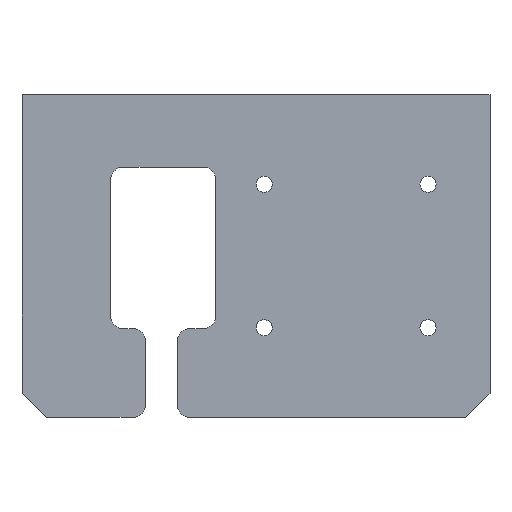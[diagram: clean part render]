
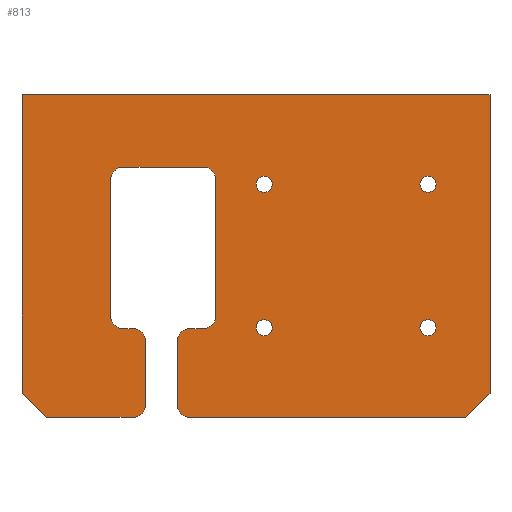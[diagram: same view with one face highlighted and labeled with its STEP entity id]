
A CAD part, top view. The second image highlights one B-rep face of the part: STEP entity #813.
In plain terms, the highlighted planar face has unit normal (0, 0, 1).
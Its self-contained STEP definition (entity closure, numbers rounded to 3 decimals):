
#112=PLANE('',#872);
#146=VECTOR('',#988,1.);
#148=VECTOR('',#991,1.);
#150=VECTOR('',#994,1.);
#152=VECTOR('',#997,1.);
#155=VECTOR('',#1009,1.);
#156=VECTOR('',#1010,1.);
#157=VECTOR('',#1011,1.);
#158=VECTOR('',#1012,1.);
#159=VECTOR('',#1013,1.);
#160=VECTOR('',#1014,1.);
#161=VECTOR('',#1015,1.);
#162=VECTOR('',#1016,1.);
#205=LINE('',#1191,#146);
#207=LINE('',#1194,#148);
#209=LINE('',#1197,#150);
#211=LINE('',#1200,#152);
#214=LINE('',#1214,#155);
#215=LINE('',#1215,#156);
#216=LINE('',#1217,#157);
#217=LINE('',#1219,#158);
#218=LINE('',#1221,#159);
#219=LINE('',#1223,#160);
#220=LINE('',#1225,#161);
#221=LINE('',#1226,#162);
#248=VERTEX_POINT('',#1120);
#249=VERTEX_POINT('',#1121);
#252=VERTEX_POINT('',#1129);
#253=VERTEX_POINT('',#1130);
#256=VERTEX_POINT('',#1138);
#257=VERTEX_POINT('',#1139);
#260=VERTEX_POINT('',#1147);
#261=VERTEX_POINT('',#1148);
#266=VERTEX_POINT('',#1159);
#267=VERTEX_POINT('',#1161);
#268=VERTEX_POINT('',#1165);
#269=VERTEX_POINT('',#1166);
#272=VERTEX_POINT('',#1174);
#273=VERTEX_POINT('',#1175);
#278=VERTEX_POINT('',#1186);
#279=VERTEX_POINT('',#1188);
#280=VERTEX_POINT('',#1201);
#282=VERTEX_POINT('',#1207);
#283=VERTEX_POINT('',#1209);
#284=VERTEX_POINT('',#1211);
#285=VERTEX_POINT('',#1213);
#286=VERTEX_POINT('',#1216);
#287=VERTEX_POINT('',#1218);
#288=VERTEX_POINT('',#1220);
#289=VERTEX_POINT('',#1222);
#290=VERTEX_POINT('',#1224);
#322=CIRCLE('',#845,1.5);
#324=CIRCLE('',#848,1.5);
#326=CIRCLE('',#851,1.5);
#328=CIRCLE('',#854,1.5);
#331=CIRCLE('',#858,1.5);
#332=CIRCLE('',#860,1.5);
#334=CIRCLE('',#863,1.5);
#337=CIRCLE('',#867,1.5);
#338=CIRCLE('',#873,1.);
#339=CIRCLE('',#874,1.);
#340=CIRCLE('',#875,1.);
#341=CIRCLE('',#876,1.);
#360=EDGE_CURVE('',#248,#249,#322,.T.);
#364=EDGE_CURVE('',#252,#253,#324,.T.);
#368=EDGE_CURVE('',#256,#257,#326,.T.);
#372=EDGE_CURVE('',#260,#261,#328,.T.);
#378=EDGE_CURVE('',#266,#267,#331,.T.);
#380=EDGE_CURVE('',#268,#269,#332,.T.);
#384=EDGE_CURVE('',#272,#273,#334,.T.);
#390=EDGE_CURVE('',#278,#279,#337,.T.);
#392=EDGE_CURVE('',#252,#249,#205,.T.);
#394=EDGE_CURVE('',#260,#253,#207,.T.);
#396=EDGE_CURVE('',#266,#261,#209,.T.);
#398=EDGE_CURVE('',#273,#280,#211,.T.);
#401=EDGE_CURVE('',#282,#282,#338,.T.);
#402=EDGE_CURVE('',#283,#283,#339,.T.);
#403=EDGE_CURVE('',#284,#284,#340,.T.);
#404=EDGE_CURVE('',#285,#285,#341,.T.);
#405=EDGE_CURVE('',#248,#257,#214,.T.);
#406=EDGE_CURVE('',#256,#269,#209,.T.);
#407=EDGE_CURVE('',#268,#279,#215,.T.);
#408=EDGE_CURVE('',#286,#278,#211,.T.);
#409=EDGE_CURVE('',#287,#286,#216,.T.);
#410=EDGE_CURVE('',#288,#287,#217,.T.);
#411=EDGE_CURVE('',#289,#288,#218,.T.);
#412=EDGE_CURVE('',#290,#289,#219,.T.);
#413=EDGE_CURVE('',#280,#290,#220,.T.);
#414=EDGE_CURVE('',#272,#267,#221,.T.);
#509=ORIENTED_EDGE('',*,*,#401,.T.);
#510=ORIENTED_EDGE('',*,*,#402,.T.);
#511=ORIENTED_EDGE('',*,*,#403,.T.);
#512=ORIENTED_EDGE('',*,*,#404,.T.);
#513=ORIENTED_EDGE('',*,*,#378,.F.);
#514=ORIENTED_EDGE('',*,*,#396,.T.);
#515=ORIENTED_EDGE('',*,*,#372,.F.);
#516=ORIENTED_EDGE('',*,*,#394,.T.);
#517=ORIENTED_EDGE('',*,*,#364,.F.);
#518=ORIENTED_EDGE('',*,*,#392,.T.);
#519=ORIENTED_EDGE('',*,*,#360,.F.);
#520=ORIENTED_EDGE('',*,*,#405,.T.);
#521=ORIENTED_EDGE('',*,*,#368,.F.);
#522=ORIENTED_EDGE('',*,*,#406,.T.);
#523=ORIENTED_EDGE('',*,*,#380,.F.);
#524=ORIENTED_EDGE('',*,*,#407,.T.);
#525=ORIENTED_EDGE('',*,*,#390,.F.);
#526=ORIENTED_EDGE('',*,*,#408,.F.);
#527=ORIENTED_EDGE('',*,*,#409,.F.);
#528=ORIENTED_EDGE('',*,*,#410,.F.);
#529=ORIENTED_EDGE('',*,*,#411,.F.);
#530=ORIENTED_EDGE('',*,*,#412,.F.);
#531=ORIENTED_EDGE('',*,*,#413,.F.);
#532=ORIENTED_EDGE('',*,*,#398,.F.);
#533=ORIENTED_EDGE('',*,*,#384,.F.);
#534=ORIENTED_EDGE('',*,*,#414,.T.);
#675=EDGE_LOOP('',(#509));
#676=EDGE_LOOP('',(#510));
#677=EDGE_LOOP('',(#511));
#678=EDGE_LOOP('',(#512));
#679=EDGE_LOOP('',(#513,#514,#515,#516,#517,#518,#519,#520,#521,#522,#523,
#524,#525,#526,#527,#528,#529,#530,#531,#532,#533,#534));
#744=FACE_BOUND('',#675,.T.);
#745=FACE_BOUND('',#676,.T.);
#746=FACE_BOUND('',#677,.T.);
#747=FACE_BOUND('',#678,.T.);
#748=FACE_BOUND('',#679,.T.);
#813=ADVANCED_FACE('',(#744,#745,#746,#747,#748),#112,.T.);
#845=AXIS2_PLACEMENT_3D('',#1119,#925,#926);
#848=AXIS2_PLACEMENT_3D('',#1128,#933,#934);
#851=AXIS2_PLACEMENT_3D('',#1137,#941,#942);
#854=AXIS2_PLACEMENT_3D('',#1146,#949,#950);
#858=AXIS2_PLACEMENT_3D('',#1160,#960,#961);
#860=AXIS2_PLACEMENT_3D('',#1164,#965,#966);
#863=AXIS2_PLACEMENT_3D('',#1173,#973,#974);
#867=AXIS2_PLACEMENT_3D('',#1187,#984,#985);
#872=AXIS2_PLACEMENT_3D('',#1205,#1000,$);
#873=AXIS2_PLACEMENT_3D('',#1206,#1001,#1002);
#874=AXIS2_PLACEMENT_3D('',#1208,#1003,#1004);
#875=AXIS2_PLACEMENT_3D('',#1210,#1005,#1006);
#876=AXIS2_PLACEMENT_3D('',#1212,#1007,#1008);
#925=DIRECTION('',(0.,0.,1.));
#926=DIRECTION('',(1.061,1.061,0.));
#933=DIRECTION('',(0.,0.,1.));
#934=DIRECTION('',(-1.061,1.061,0.));
#941=DIRECTION('',(0.,0.,1.));
#942=DIRECTION('',(1.061,-1.061,0.));
#949=DIRECTION('',(0.,0.,1.));
#950=DIRECTION('',(-1.061,-1.061,0.));
#960=DIRECTION('',(0.,0.,-1.));
#961=DIRECTION('',(1.061,1.061,0.));
#965=DIRECTION('',(0.,0.,-1.));
#966=DIRECTION('',(-1.061,1.061,0.));
#973=DIRECTION('',(0.,0.,-1.));
#974=DIRECTION('',(1.061,-1.061,0.));
#984=DIRECTION('',(0.,0.,-1.));
#985=DIRECTION('',(-1.061,-1.061,0.));
#988=DIRECTION('',(1.,0.,0.));
#991=DIRECTION('',(0.,1.,0.));
#994=DIRECTION('',(-1.,0.,0.));
#997=DIRECTION('',(-1.,0.,0.));
#1000=DIRECTION('',(0.,0.,1.));
#1001=DIRECTION('',(0.,0.,-1.));
#1002=DIRECTION('',(1.,0.,0.));
#1003=DIRECTION('',(0.,0.,-1.));
#1004=DIRECTION('',(1.,0.,0.));
#1005=DIRECTION('',(0.,0.,-1.));
#1006=DIRECTION('',(1.,0.,0.));
#1007=DIRECTION('',(0.,0.,-1.));
#1008=DIRECTION('',(1.,0.,0.));
#1009=DIRECTION('',(0.,-1.,0.));
#1010=DIRECTION('',(0.,-1.,0.));
#1011=DIRECTION('',(-0.707,-0.707,0.));
#1012=DIRECTION('',(0.,-1.,0.));
#1013=DIRECTION('',(1.,0.,0.));
#1014=DIRECTION('',(0.,1.,0.));
#1015=DIRECTION('',(-0.707,0.707,0.));
#1016=DIRECTION('',(0.,1.,0.));
#1119=CARTESIAN_POINT('',(-6.5,9.5,4.));
#1120=CARTESIAN_POINT('',(-5.,9.5,4.));
#1121=CARTESIAN_POINT('',(-6.5,11.,4.));
#1128=CARTESIAN_POINT('',(-16.5,9.5,4.));
#1129=CARTESIAN_POINT('',(-16.5,11.,4.));
#1130=CARTESIAN_POINT('',(-18.,9.5,4.));
#1137=CARTESIAN_POINT('',(-6.5,-7.5,4.));
#1138=CARTESIAN_POINT('',(-6.5,-9.,4.));
#1139=CARTESIAN_POINT('',(-5.,-7.5,4.));
#1146=CARTESIAN_POINT('',(-16.5,-7.5,4.));
#1147=CARTESIAN_POINT('',(-18.,-7.5,4.));
#1148=CARTESIAN_POINT('',(-16.5,-9.,4.));
#1159=CARTESIAN_POINT('',(-15.227,-9.,4.));
#1160=CARTESIAN_POINT('',(-15.227,-10.5,4.));
#1161=CARTESIAN_POINT('',(-13.727,-10.5,4.));
#1164=CARTESIAN_POINT('',(-8.227,-10.5,4.));
#1165=CARTESIAN_POINT('',(-9.727,-10.5,4.));
#1166=CARTESIAN_POINT('',(-8.227,-9.,4.));
#1173=CARTESIAN_POINT('',(-15.227,-18.5,4.));
#1174=CARTESIAN_POINT('',(-13.727,-18.5,4.));
#1175=CARTESIAN_POINT('',(-15.227,-20.,4.));
#1186=CARTESIAN_POINT('',(-8.227,-20.,4.));
#1187=CARTESIAN_POINT('',(-8.227,-18.5,4.));
#1188=CARTESIAN_POINT('',(-9.727,-18.5,4.));
#1191=CARTESIAN_POINT('',(-5.75,11.,4.));
#1194=CARTESIAN_POINT('',(-18.,0.5,4.));
#1197=CARTESIAN_POINT('',(-5.75,-9.,4.));
#1200=CARTESIAN_POINT('',(-29.,-20.,4.));
#1201=CARTESIAN_POINT('',(-26.,-20.,4.));
#1205=CARTESIAN_POINT('',(0.,0.,4.));
#1206=CARTESIAN_POINT('',(21.32,8.89,4.));
#1207=CARTESIAN_POINT('',(20.32,8.89,4.));
#1208=CARTESIAN_POINT('',(21.32,-8.89,4.));
#1209=CARTESIAN_POINT('',(20.32,-8.89,4.));
#1210=CARTESIAN_POINT('',(1.,-8.89,4.));
#1211=CARTESIAN_POINT('',(0.,-8.89,4.));
#1212=CARTESIAN_POINT('',(1.,8.89,4.));
#1213=CARTESIAN_POINT('',(0.,8.89,4.));
#1214=CARTESIAN_POINT('',(-5.,0.5,4.));
#1215=CARTESIAN_POINT('',(-9.727,-7.25,4.));
#1216=CARTESIAN_POINT('',(26.,-20.,4.));
#1217=CARTESIAN_POINT('',(25.25,-20.75,4.));
#1218=CARTESIAN_POINT('',(29.,-17.,4.));
#1219=CARTESIAN_POINT('',(29.,-20.,4.));
#1220=CARTESIAN_POINT('',(29.,20.,4.));
#1221=CARTESIAN_POINT('',(29.,20.,4.));
#1222=CARTESIAN_POINT('',(-29.,20.,4.));
#1223=CARTESIAN_POINT('',(-29.,20.,4.));
#1224=CARTESIAN_POINT('',(-29.,-17.,4.));
#1225=CARTESIAN_POINT('',(-25.25,-20.75,4.));
#1226=CARTESIAN_POINT('',(-13.727,-7.25,4.));
